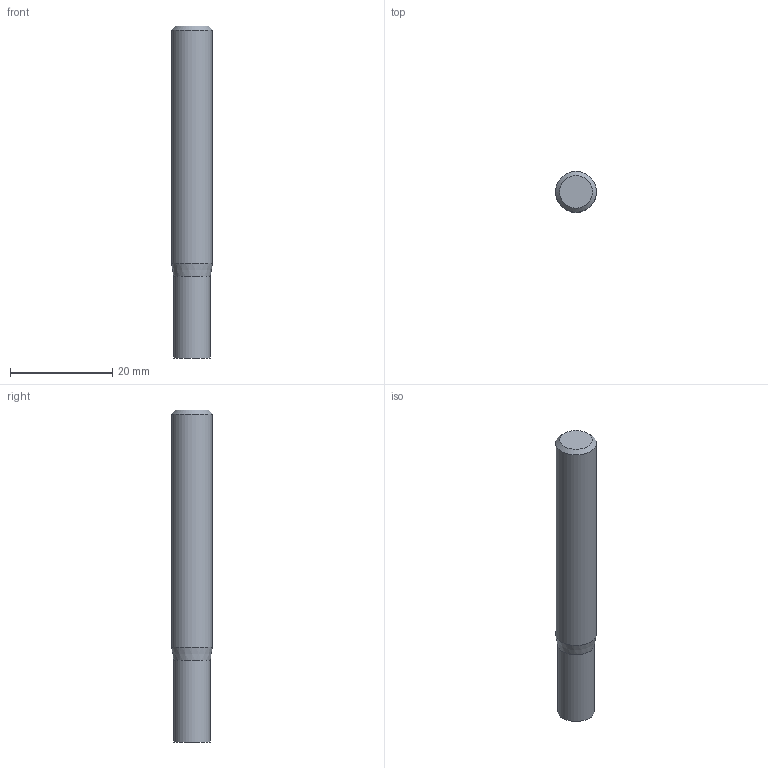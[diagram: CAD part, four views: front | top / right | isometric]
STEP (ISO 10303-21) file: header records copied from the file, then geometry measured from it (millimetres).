
FILE_DESCRIPTION((''),'2;1');
FILE_NAME('C:\Users\nsx150\AppData\Local\Temp\Mastercam 2021\98T1Q6BTT1\TEMP.step','2021-10-21T14:49:20',(''),(''),'STEP Write','Mastercam 2021 ... CNC Software, Inc.','');
FILE_SCHEMA(('AUTOMOTIVE_DESIGN'));
Length unit declared in the file: millimetre
Products named in the file (1): None
Bounding box: 8 x 8 x 65 mm (x, y, z)
Volume: 3094.7 mm3; surface area: 1750.8 mm2
Topology: 2 solids, 2 shells, 8 faces, 10 edges, 6 vertices
Faces by surface type: plane 4, cylinder 2, cone 2
Full cylindrical faces by diameter (mm): 7.2 x1, 8 x1
Entity records: 190 total; most frequent: DIRECTION 32, CARTESIAN_POINT 22, AXIS2_PLACEMENT_3D 16, ORIENTED_EDGE 12, EDGE_LOOP 12, STYLED_ITEM 11, ADVANCED_FACE 8, VERTEX_POINT 6
